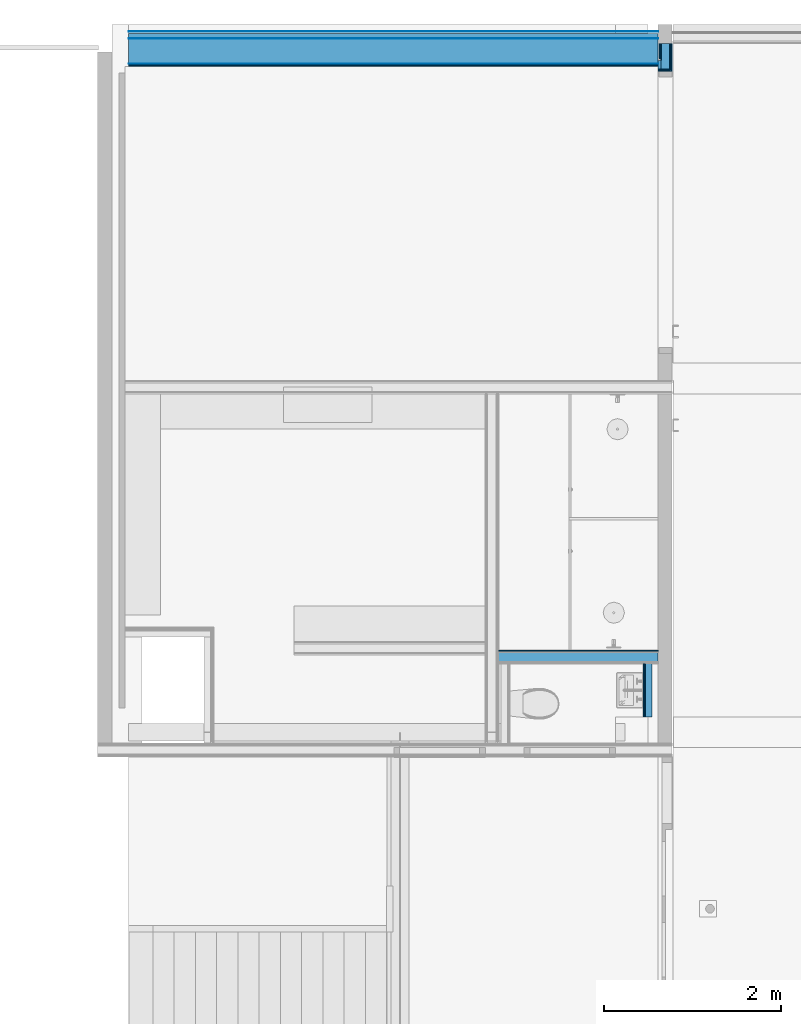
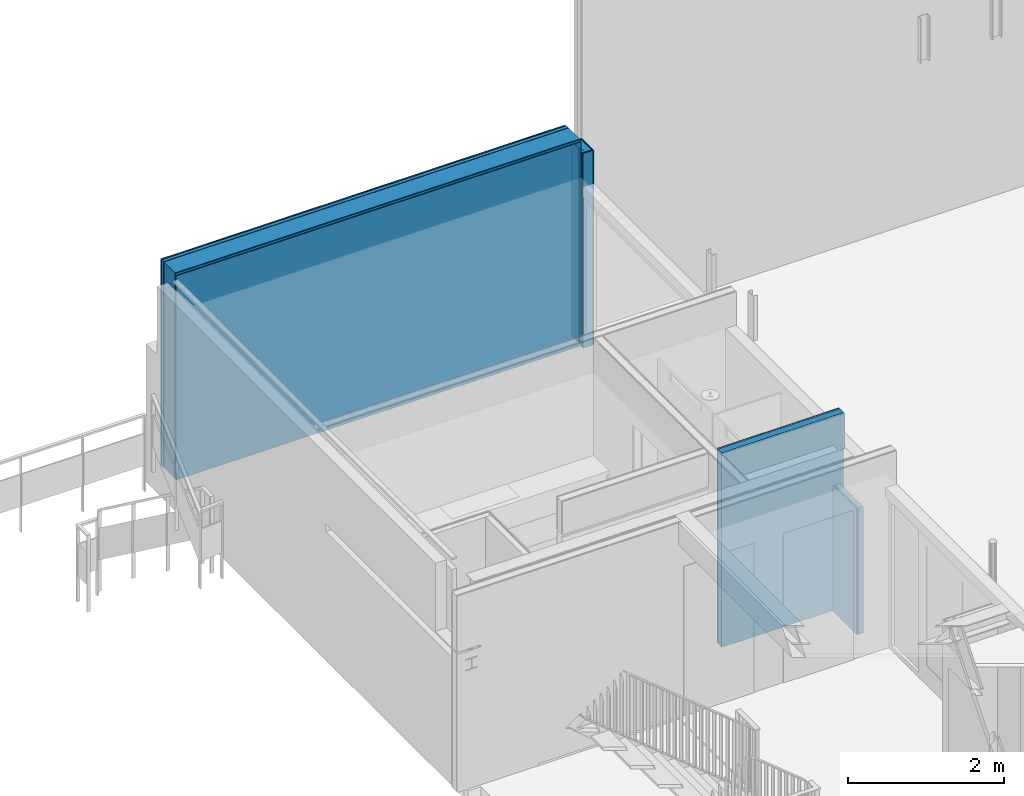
# One storey, part 13 of 35: 21 building element parts, 5 elements without a shape of their own.
"""IFC2X3 building model written with IfcOpenShell, lengths in millimetres."""

import ifcopenshell
import ifcopenshell.guid

model = None  # the IFC model being written
_history = None  # IfcOwnerHistory: only IFC2X3 demands one
_inside = {}  # id of a spatial element -> (the spatial element, [elements in it])
_under = {}  # id of a project, library or spatial element -> (it, [spatial elements below it])
_declared = {}  # id of a project -> (the project, [libraries it declares])
_typed = {}  # id of a type object -> (the type object, [elements of that type])
_made_of = {}  # id of a material, layer set ... -> (it, [elements and type objects made of it])


def new_model(schema):
    """Start an empty IFC model of exactly this schema.

    Asked for "IFC4X3", IfcOpenShell would pick the latest addendum, in which some entities
    have other attributes; the version numbers below select the first issue.
    IFC2X3 requires an IfcOwnerHistory on every rooted entity: one is made here for all.
    """
    global model, _history
    if schema == "IFC4X3":
        model = ifcopenshell.file(schema_version=(4, 3, 0, 0))
    else:
        model = ifcopenshell.file(schema=schema)
    _inside.clear()
    _under.clear()
    _declared.clear()
    _typed.clear()
    _made_of.clear()
    _history = None
    if model.schema == "IFC2X3":
        org = make("IfcOrganization", Name="unknown")
        user = make(
            "IfcPersonAndOrganization",
            ThePerson=make("IfcPerson", FamilyName="unknown"),
            TheOrganization=org,
        )
        app = make(
            "IfcApplication",
            ApplicationDeveloper=org,
            Version="unknown",
            ApplicationFullName="unknown",
            ApplicationIdentifier="unknown",
        )
        _history = make(
            "IfcOwnerHistory",
            OwningUser=user,
            OwningApplication=app,
            ChangeAction="ADDED",
            CreationDate=0,
        )
    return model


def make(cls, **values):
    """One entity of the class cls with the attributes given. An attribute that is None is left unset."""
    return model.create_entity(
        cls, **{name: value for name, value in values.items() if value is not None}
    )


def entity(cls, *values):
    """Any entity or typed value of the class cls, its attributes in the order of the schema. None: left unset."""
    e = model.create_entity(cls)
    for i, value in enumerate(values):
        if value is not None:
            e[i] = value
    return e


def rooted(cls, **values):
    """An entity with a GlobalId (a new one), such as an element, a storey or a relation."""
    return make(cls, GlobalId=ifcopenshell.guid.new(), OwnerHistory=_history, **values)


def si_unit(unit_type, name, prefix=None):
    """IfcSIUnit, for example si_unit("LENGTHUNIT", "METRE", prefix="MILLI")."""
    return make("IfcSIUnit", UnitType=unit_type, Prefix=prefix, Name=name)


def converted_unit(unit_type, name, factor, base, dimensions=None, offset=None):
    """IfcConversionBasedUnit, such as the inch: factor (a typed value) times the base unit."""
    return make(
        "IfcConversionBasedUnit"
        if offset is None
        else "IfcConversionBasedUnitWithOffset",
        ConversionOffset=offset,
        Dimensions=None
        if dimensions is None
        else entity("IfcDimensionalExponents", *dimensions),
        UnitType=unit_type,
        Name=name,
        ConversionFactor=make(
            "IfcMeasureWithUnit", ValueComponent=factor, UnitComponent=base
        ),
    )


def derived_unit(unit_type, elements):
    """IfcDerivedUnit: a product of units, each with its exponent."""
    return make(
        "IfcDerivedUnit",
        Elements=[
            make("IfcDerivedUnitElement", Unit=unit, Exponent=power)
            for unit, power in elements
        ],
        UnitType=unit_type,
    )


def money_unit(currency):
    """IfcMonetaryUnit."""
    return make("IfcMonetaryUnit", Currency=currency)


def assignment(units):
    """IfcUnitAssignment: the units of a project."""
    return None if units is None else make("IfcUnitAssignment", Units=units)


def point(xyz):
    """IfcCartesianPoint."""
    return None if xyz is None else make("IfcCartesianPoint", Coordinates=xyz)


def direction(xyz):
    """IfcDirection."""
    return None if xyz is None else make("IfcDirection", DirectionRatios=xyz)


def frame(location, z_axis=None, x_axis=None):
    """IfcAxis2Placement3D, a coordinate frame: its origin and axes. An axis left out is left unset."""
    return make(
        "IfcAxis2Placement3D",
        Location=point(location),
        Axis=direction(z_axis),
        RefDirection=direction(x_axis),
    )


def origin_with_axes():
    """The frame at (0, 0, 0) with the z axis (0, 0, 1) and the x axis (1, 0, 0) written out."""
    return frame((0.0, 0.0, 0.0), z_axis=(0.0, 0.0, 1.0), x_axis=(1.0, 0.0, 0.0))


def place(relative_to, where):
    """IfcLocalPlacement: puts the frame where relative to a parent placement (None: the world)."""
    return make(
        "IfcLocalPlacement", PlacementRelTo=relative_to, RelativePlacement=where
    )


def context(
    kind, dimensions, precision=None, world=None, true_north=None, identifier=None
):
    """IfcGeometricRepresentationContext, for example the 3D "Model" context."""
    return make(
        "IfcGeometricRepresentationContext",
        ContextIdentifier=identifier,
        ContextType=kind,
        CoordinateSpaceDimension=dimensions,
        Precision=precision,
        WorldCoordinateSystem=world,
        TrueNorth=true_north,
    )


def subcontext(parent, identifier, kind, view, scale=None):
    """IfcGeometricRepresentationSubContext, for example "Body" below "Model"."""
    return make(
        "IfcGeometricRepresentationSubContext",
        ContextIdentifier=identifier,
        ContextType=kind,
        ParentContext=parent,
        TargetScale=scale,
        TargetView=view,
    )


def project(units=None, contexts=None):
    """IfcProject with its units and contexts."""
    return rooted(
        "IfcProject",
        Name="project",
        RepresentationContexts=contexts,
        UnitsInContext=assignment(units),
    )


def spatial(cls, under=None, at=None, **own):
    """A site, building, storey or space (cls), placed at a placement, below another one or the project."""
    s = rooted(cls, ObjectPlacement=at, **own)
    if under is not None:
        _under.setdefault(under.id(), (under, []))[1].append(s)
    return s


def faces_of(points, faces, orient=None, outer=None):
    """IfcFace entities. A face is a list of loops; a loop is a list of indices into points, from 0.

    orient and outer hold one flag for each loop. By default every Orientation is true, the
    first loop of a face is its IfcFaceOuterBound and the others are IfcFaceBound.
    """
    made = []
    for i, loops in enumerate(faces):
        bounds = []
        for j, loop in enumerate(loops):
            is_outer = j == 0 if outer is None else outer[i][j]
            bounds.append(
                make(
                    "IfcFaceOuterBound" if is_outer else "IfcFaceBound",
                    Bound=make("IfcPolyLoop", Polygon=[points[k] for k in loop]),
                    Orientation=True if orient is None else orient[i][j],
                )
            )
        made.append(make("IfcFace", Bounds=bounds))
    return made


def faceted_brep(points, faces, orient=None, outer=None, voids=None):
    """IfcFacetedBrep: a solid bounded by flat faces; with voids (closed shells), ...WithVoids."""
    shared = [point(p) for p in points]
    hull = make("IfcClosedShell", CfsFaces=faces_of(shared, faces, orient, outer))
    if voids is None:
        return make("IfcFacetedBrep", Outer=hull)
    return make(
        "IfcFacetedBrepWithVoids",
        Outer=hull,
        Voids=[
            make(cls, CfsFaces=faces_of(shared, fs, o, b)) for cls, fs, o, b in voids
        ],
    )


def shape(context_of_items, identifier, shape_type, items):
    """IfcShapeRepresentation: the items that make up one representation, for example the "Body"."""
    return make(
        "IfcShapeRepresentation",
        ContextOfItems=context_of_items,
        RepresentationIdentifier=identifier,
        RepresentationType=shape_type,
        Items=items,
    )


def material(Name=None, Category=None):
    """IfcMaterial."""
    return make("IfcMaterial", Name=Name, Category=Category)


def made_of(thing, what):
    """Note that an element or type object is made of a material, layer set ...; save() writes the relation."""
    if what is not None:
        _made_of.setdefault(what.id(), (what, []))[1].append(thing)
    return thing


def type_object(cls, material=None, **own):
    """A type object (cls), such as IfcWallType, which elements share."""
    return made_of(rooted(cls, **own), material)


def element(
    cls,
    number,
    at=None,
    inside=None,
    cuts=None,
    type_object=None,
    material=None,
    context=None,
    identifier="Body",
    shape_type=None,
    held_by="IfcProductDefinitionShape",
    body=None,
    shapes=None,
    **own,
):
    """One element of the class cls, such as IfcWall. Its Tag is "e" and its number.

    at: its placement. inside: the storey or other place that contains it. cuts: it is an
    opening in that element (IfcRelVoidsElement). A single representation is given by context,
    identifier, shape_type and body (its items); several are given by shapes. held_by: the class
    of the entity that holds the representations. save() writes the other relations.
    """
    e = rooted(cls, Tag="e%d" % number, ObjectPlacement=at, **own)
    if body is not None:
        shapes = [shape(context, identifier, shape_type, body)]
    if shapes is not None:
        e.Representation = make(held_by, Representations=shapes)
    if inside is not None:
        _inside.setdefault(inside.id(), (inside, []))[1].append(e)
    if cuts is not None:
        rooted(
            "IfcRelVoidsElement", RelatingBuildingElement=cuts, RelatedOpeningElement=e
        )
    if type_object is not None:
        _typed.setdefault(type_object.id(), (type_object, []))[1].append(e)
    return made_of(e, material)


def aggregate(whole, parts):
    """IfcRelAggregates: a whole, such as a stair, and the parts it consists of."""
    return rooted("IfcRelAggregates", RelatingObject=whole, RelatedObjects=parts)


def save(model, path):
    """Write the relations noted so far, then the file.

    IfcRelAggregates (storeys below a building ...), IfcRelContainedInSpatialStructure (elements
    in a storey), IfcRelDefinesByType, IfcRelAssociatesMaterial and IfcRelDeclares: one each for
    every whole, place, type object, material and project.
    """
    for whole, parts in _under.values():
        aggregate(whole, parts)
    for where, things in _inside.values():
        rooted(
            "IfcRelContainedInSpatialStructure",
            RelatedElements=things,
            RelatingStructure=where,
        )
    for kind, things in _typed.values():
        rooted("IfcRelDefinesByType", RelatedObjects=things, RelatingType=kind)
    for what, things in _made_of.values():
        rooted("IfcRelAssociatesMaterial", RelatedObjects=things, RelatingMaterial=what)
    for by, libraries in _declared.values():
        rooted("IfcRelDeclares", RelatingContext=by, RelatedDefinitions=libraries)
    model.write(path)


model = new_model("IFC2X3")

# Units and contexts
model_context = context("Model", 3, precision=0.01, world=origin_with_axes(), true_north=direction((0.0, 1.0)))
body_context = subcontext(model_context, "Body", "Model", "MODEL_VIEW")
ifc_project = project(units=[si_unit("LENGTHUNIT", "METRE", prefix="MILLI"), si_unit("AREAUNIT", "SQUARE_METRE"), si_unit("VOLUMEUNIT", "CUBIC_METRE"), converted_unit("PLANEANGLEUNIT", "DEGREE", entity("IfcPlaneAngleMeasure", 0.0174532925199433), si_unit("PLANEANGLEUNIT", "RADIAN"), dimensions=[0, 0, 0, 0, 0, 0, 0]), money_unit("EUR"), converted_unit("TIMEUNIT", "Year", entity("IfcTimeMeasure", 31557600.0), si_unit("TIMEUNIT", "SECOND"), dimensions=[0, 0, 1, 0, 0, 0, 0]), si_unit("MASSUNIT", "GRAM", prefix="KILO"), si_unit("THERMODYNAMICTEMPERATUREUNIT", "DEGREE_CELSIUS"), si_unit("LUMINOUSINTENSITYUNIT", "LUMEN"), si_unit("ENERGYUNIT", "JOULE", prefix="MEGA"), derived_unit("THERMALCONDUCTANCEUNIT", [(si_unit("POWERUNIT", "WATT"), 1), (si_unit("LENGTHUNIT", "METRE"), -1), (si_unit("THERMODYNAMICTEMPERATUREUNIT", "KELVIN"), -1)]), derived_unit("SPECIFICHEATCAPACITYUNIT", [(si_unit("ENERGYUNIT", "JOULE"), 1), (si_unit("MASSUNIT", "GRAM", prefix="KILO"), -1), (si_unit("THERMODYNAMICTEMPERATUREUNIT", "KELVIN"), -1)]), derived_unit("MASSDENSITYUNIT", [(si_unit("MASSUNIT", "GRAM", prefix="KILO"), 1), (si_unit("VOLUMEUNIT", "CUBIC_METRE"), -1)])], contexts=[model_context])

# Site, building, storey
site_placement = place(None, origin_with_axes())
site = spatial("IfcSite", under=ifc_project, at=site_placement, Name="<site naam>", CompositionType="ELEMENT")
building_placement = place(site_placement, origin_with_axes())
building = spatial("IfcBuilding", under=site, at=building_placement, Name="<Naam gebouw>", CompositionType="ELEMENT")
storey_placement = place(building_placement, frame((0.0, 0.0, 6345.0), z_axis=(0.0, 0.0, 1.0), x_axis=(1.0, 0.0, 0.0)))
storey = spatial("IfcBuildingStorey", under=building, at=storey_placement, Name="02 2e tussenverdieping", CompositionType="ELEMENT", Elevation=6345.0)

# Wall, building element parts
wall_type_1 = type_object("IfcWallType", Name="MS-01 GF 150 ECO DGS/2.100.2.A 150", PredefinedType="NOTDEFINED")
wall_1_placement = place(storey_placement, frame((58157.78284470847, 12775.95640098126, 0.0), z_axis=(0.0, 0.0, 1.0), x_axis=(-1.0, 0.0, 0.0)))
wall_1 = element("IfcWall", 1, at=wall_1_placement, inside=storey, type_object=wall_type_1, Name="22_Binnenwand_MS-01")
ifc_material_1 = material(Name="isolatie_steenwol LSW")
building_element_part_1_placement = place(wall_1_placement, origin_with_axes())
building_element_part_1 = element("IfcBuildingElementPart", 2, at=building_element_part_1_placement, material=ifc_material_1, Name="isolatie_steenwol LSW", context=body_context, shape_type="Brep", body=[
    faceted_brep([(1802.747141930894, -125.0, 0.0), (0.0, -125.0, 0.0), (0.0, -25.00000000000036, 0.0), (1802.747141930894, -25.00000000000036, 0.0), (1802.747141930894, -125.0, 3038.000000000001), (0.0, -125.0, 3038.000000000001), (0.0, -25.00000000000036, 3038.000000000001), (1802.747141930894, -25.00000000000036, 3038.000000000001)], [[[0, 1, 2, 3]], [[4, 5, 1, 0]], [[2, 1, 5, 6]], [[3, 2, 6, 7]], [[3, 7, 4, 0]], [[7, 6, 5, 4]]]),
])
ifc_material_2 = material(Name="gipsplaat")
building_element_part_2_placement = place(wall_1_placement, origin_with_axes())
building_element_part_2 = element("IfcBuildingElementPart", 3, at=building_element_part_2_placement, material=ifc_material_2, Name="gipsplaat", context=body_context, shape_type="Brep", body=[
    faceted_brep([(1802.747141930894, -150.0000000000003, 0.0), (0.0, -150.0000000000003, 0.0), (0.0, -137.4999999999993, 0.0), (1802.747141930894, -137.4999999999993, 0.0), (1802.747141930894, -150.0000000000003, 3038.000000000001), (0.0, -150.0000000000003, 3038.000000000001), (0.0, -137.4999999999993, 3038.000000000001), (1802.747141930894, -137.4999999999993, 3038.000000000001)], [[[0, 1, 2, 3]], [[4, 5, 1, 0]], [[2, 1, 5, 6]], [[3, 2, 6, 7]], [[3, 7, 4, 0]], [[7, 6, 5, 4]]]),
])
aggregate(wall_1, [building_element_part_1, building_element_part_2])

wall_2_placement = place(storey_placement, frame((58317.78284470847, 19781.78672540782, 0.0), z_axis=(0.0, 0.0, 1.0), x_axis=(0.0, -1.0, 0.0)))
wall_2 = element("IfcWall", 4, at=wall_2_placement, inside=storey, type_object=wall_type_1, Name="22_Binnenwand_MS-01")
building_element_part_3_placement = place(wall_2_placement, origin_with_axes())
building_element_part_3 = element("IfcBuildingElementPart", 5, at=building_element_part_3_placement, material=ifc_material_2, Name="gipsplaat", context=body_context, shape_type="Brep", body=[
    faceted_brep([(311.7868628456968, 0.0, 3038.000000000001), (0.0, 0.0, 3038.000000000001), (0.0, -12.50000000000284, 3038.000000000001), (311.7868628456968, -12.50000000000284, 3038.000000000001), (311.7868628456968, 0.0, 0.0), (0.0, 0.0, 0.0), (0.0, -12.50000000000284, 0.0), (311.7868628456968, -12.50000000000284, 0.0)], [[[0, 1, 2, 3]], [[4, 5, 1, 0]], [[2, 1, 5, 6]], [[3, 2, 6, 7]], [[3, 7, 4, 0]], [[7, 6, 5, 4]]]),
])
building_element_part_4_placement = place(wall_2_placement, origin_with_axes())
building_element_part_4 = element("IfcBuildingElementPart", 6, at=building_element_part_4_placement, material=ifc_material_2, Name="gipsplaat", context=body_context, shape_type="Brep", body=[
    faceted_brep([(299.2868628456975, -12.50000000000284, 3038.000000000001), (0.0, -12.50000000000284, 3038.000000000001), (0.0, -24.99999999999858, 3038.000000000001), (299.2868628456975, -24.99999999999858, 3038.000000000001), (299.2868628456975, -12.50000000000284, 0.0), (0.0, -12.50000000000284, 0.0), (0.0, -24.99999999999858, 0.0), (299.2868628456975, -24.99999999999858, 0.0)], [[[0, 1, 2, 3]], [[4, 5, 1, 0]], [[2, 1, 5, 6]], [[3, 2, 6, 7]], [[3, 7, 4, 0]], [[7, 6, 5, 4]]]),
])
building_element_part_5_placement = place(wall_2_placement, origin_with_axes())
building_element_part_5 = element("IfcBuildingElementPart", 7, at=building_element_part_5_placement, material=ifc_material_2, Name="gipsplaat", context=body_context, shape_type="Brep", body=[
    faceted_brep([(186.7868628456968, -125.0, 3038.000000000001), (0.0, -125.0, 3038.000000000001), (0.0, -137.5000000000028, 3038.000000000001), (186.7868628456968, -137.5000000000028, 3038.000000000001), (186.7868628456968, -125.0, 0.0), (0.0, -125.0, 0.0), (0.0, -137.5000000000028, 0.0), (186.7868628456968, -137.5000000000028, 0.0)], [[[0, 1, 2, 3]], [[4, 5, 1, 0]], [[2, 1, 5, 6]], [[3, 2, 6, 7]], [[3, 7, 4, 0]], [[7, 6, 5, 4]]]),
])
building_element_part_6_placement = place(wall_2_placement, origin_with_axes())
building_element_part_6 = element("IfcBuildingElementPart", 8, at=building_element_part_6_placement, material=ifc_material_2, Name="gipsplaat", context=body_context, shape_type="Brep", body=[
    faceted_brep([(174.2868628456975, -137.5000000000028, 3038.000000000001), (0.0, -137.5000000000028, 3038.000000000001), (0.0, -149.9999999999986, 3038.000000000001), (174.2868628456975, -149.9999999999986, 3038.000000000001), (174.2868628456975, -137.5000000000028, 0.0), (0.0, -137.5000000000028, 0.0), (0.0, -149.9999999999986, 0.0), (174.2868628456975, -149.9999999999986, 0.0)], [[[0, 1, 2, 3]], [[4, 5, 1, 0]], [[2, 1, 5, 6]], [[3, 2, 6, 7]], [[3, 7, 4, 0]], [[7, 6, 5, 4]]]),
])
building_element_part_7_placement = place(wall_2_placement, origin_with_axes())
building_element_part_7 = element("IfcBuildingElementPart", 9, at=building_element_part_7_placement, material=ifc_material_1, Name="isolatie_steenwol LSW", context=body_context, shape_type="Brep", body=[
    faceted_brep([(286.7868628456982, -24.99999999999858, 3038.000000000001), (0.0, -24.99999999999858, 3038.000000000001), (0.0, -125.0, 3038.000000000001), (286.7868628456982, -125.0, 3038.000000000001), (286.7868628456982, -24.99999999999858, 0.0), (0.0, -24.99999999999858, 0.0), (0.0, -125.0, 0.0), (286.7868628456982, -125.0, 0.0)], [[[0, 1, 2, 3]], [[4, 5, 1, 0]], [[2, 1, 5, 6]], [[3, 2, 6, 7]], [[3, 7, 4, 0]], [[7, 6, 5, 4]]]),
])
aggregate(wall_2, [building_element_part_3, building_element_part_4, building_element_part_5, building_element_part_6, building_element_part_7])

wall_3_placement = place(storey_placement, frame((58317.78284470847, 19469.99986256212, 0.0), z_axis=(0.0, 0.0, 1.0), x_axis=(-1.0, 0.0, 0.0)))
wall_3 = element("IfcWall", 10, at=wall_3_placement, inside=storey, type_object=wall_type_1, Name="22_Binnenwand_MS-01")
building_element_part_8_placement = place(wall_3_placement, origin_with_axes())
building_element_part_8 = element("IfcBuildingElementPart", 11, at=building_element_part_8_placement, material=ifc_material_2, Name="gipsplaat", context=body_context, shape_type="Brep", body=[
    faceted_brep([(159.9999311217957, -12.49999999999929, 3038.000000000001), (159.9999311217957, 0.0, 3038.000000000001), (12.50000000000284, 0.0, 3038.000000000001), (12.50000000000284, -12.49999999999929, 3038.000000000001), (159.9999311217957, -12.49999999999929, 0.0), (159.9999311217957, 0.0, 0.0), (12.50000000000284, 0.0, 0.0), (12.50000000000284, -12.49999999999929, 0.0)], [[[0, 1, 2, 3]], [[0, 4, 5, 1]], [[1, 5, 6, 2]], [[3, 2, 6, 7]], [[4, 0, 3, 7]], [[5, 4, 7, 6]]]),
])
building_element_part_9_placement = place(wall_3_placement, origin_with_axes())
building_element_part_9 = element("IfcBuildingElementPart", 12, at=building_element_part_9_placement, material=ifc_material_2, Name="gipsplaat", context=body_context, shape_type="Brep", body=[
    faceted_brep([(159.9999311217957, -24.99999999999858, 3038.000000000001), (159.9999311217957, -12.49999999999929, 3038.000000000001), (24.99999999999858, -12.49999999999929, 3038.000000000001), (24.99999999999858, -24.99999999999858, 3038.000000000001), (159.9999311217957, -24.99999999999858, 0.0), (159.9999311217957, -12.49999999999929, 0.0), (24.99999999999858, -12.49999999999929, 0.0), (24.99999999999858, -24.99999999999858, 0.0)], [[[0, 1, 2, 3]], [[0, 4, 5, 1]], [[1, 5, 6, 2]], [[3, 2, 6, 7]], [[4, 0, 3, 7]], [[5, 4, 7, 6]]]),
])
building_element_part_10_placement = place(wall_3_placement, origin_with_axes())
building_element_part_10 = element("IfcBuildingElementPart", 13, at=building_element_part_10_placement, material=ifc_material_1, Name="isolatie_steenwol LSW", context=body_context, shape_type="Brep", body=[
    faceted_brep([(159.9999311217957, -125.0, 3038.000000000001), (159.9999311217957, -24.99999999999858, 3038.000000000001), (125.0, -24.99999999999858, 3038.000000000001), (125.0, -125.0, 3038.000000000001), (159.9999311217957, -125.0, 0.0), (159.9999311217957, -24.99999999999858, 0.0), (125.0, -24.99999999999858, 0.0), (125.0, -125.0, 0.0)], [[[0, 1, 2, 3]], [[0, 4, 5, 1]], [[1, 5, 6, 2]], [[3, 2, 6, 7]], [[4, 0, 3, 7]], [[5, 4, 7, 6]]]),
])
aggregate(wall_3, [building_element_part_8, building_element_part_9, building_element_part_10])

wall_type_2 = type_object("IfcWallType", Name="HSB_285 gevelbeplating Brise Soleil 398", PredefinedType="NOTDEFINED")
wall_4_placement = place(storey_placement, frame((52174.99998309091, 19527.50019144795, 0.0), z_axis=(0.0, 0.0, 1.0), x_axis=(1.0, 0.0, 0.0)))
wall_4 = element("IfcWall", 14, at=wall_4_placement, inside=storey, type_object=wall_type_2, Name="21_Binnenwand_HSB_285")
ifc_material_3 = material(Name="metaal - Aluminium gevelplaat")
building_element_part_11_placement = place(wall_4_placement, origin_with_axes())
building_element_part_11 = element("IfcBuildingElementPart", 15, at=building_element_part_11_placement, material=ifc_material_3, Name="metaal - Aluminium gevelplaat", context=body_context, shape_type="Brep", body=[
    faceted_brep([(5982.782943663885, 389.5000000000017, 3218.000000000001), (5982.782943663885, 397.5000000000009, 3218.000000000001), (0.0, 397.5000000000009, 3218.000000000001), (0.0, 389.5000000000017, 3218.000000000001), (5982.782943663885, 389.5000000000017, 0.0), (5982.782943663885, 397.5000000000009, 0.0), (0.0, 397.5000000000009, 0.0), (0.0, 389.5000000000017, 0.0)], [[[0, 1, 2, 3]], [[0, 4, 5, 1]], [[1, 5, 6, 2]], [[3, 2, 6, 7]], [[4, 0, 3, 7]], [[5, 4, 7, 6]]]),
])
ifc_material_4 = material(Name="isolatie _steenwol_hard")
building_element_part_12_placement = place(wall_4_placement, origin_with_axes())
building_element_part_12 = element("IfcBuildingElementPart", 16, at=building_element_part_12_placement, material=ifc_material_4, Name="isolatie _steenwol_hard", context=body_context, shape_type="Brep", body=[
    faceted_brep([(5982.782943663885, 318.0000000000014, 3218.000000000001), (5982.782943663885, 368.0000000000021, 3218.000000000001), (0.0, 367.9999999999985, 3218.000000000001), (0.0, 318.0000000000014, 3218.000000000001), (5982.782943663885, 318.0000000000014, 0.0), (5982.782943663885, 368.0000000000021, 0.0), (0.0, 367.9999999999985, 0.0), (0.0, 318.0000000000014, 0.0)], [[[0, 1, 2, 3]], [[0, 4, 5, 1]], [[1, 5, 6, 2]], [[3, 2, 6, 7]], [[4, 0, 3, 7]], [[5, 4, 7, 6]]]),
])
ifc_material_5 = material(Name="folie_dampopen")
building_element_part_13_placement = place(wall_4_placement, origin_with_axes())
building_element_part_13 = element("IfcBuildingElementPart", 17, at=building_element_part_13_placement, material=ifc_material_5, Name="folie_dampopen", context=body_context, shape_type="Brep", body=[
    faceted_brep([(5982.782943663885, 317.499999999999, 3218.000000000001), (5982.782943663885, 318.0000000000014, 3218.000000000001), (0.0, 318.0000000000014, 3218.000000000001), (0.0, 317.499999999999, 3218.000000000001), (5982.782943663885, 317.499999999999, 0.0), (5982.782943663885, 318.0000000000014, 0.0), (0.0, 318.0000000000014, 0.0), (0.0, 317.499999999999, 0.0)], [[[0, 1, 2, 3]], [[0, 4, 5, 1]], [[1, 5, 6, 2]], [[3, 2, 6, 7]], [[4, 0, 3, 7]], [[5, 4, 7, 6]]]),
])
ifc_material_6 = material(Name="brandwerende_bekleding")
building_element_part_14_placement = place(wall_4_placement, origin_with_axes())
building_element_part_14 = element("IfcBuildingElementPart", 18, at=building_element_part_14_placement, material=ifc_material_6, Name="brandwerende_bekleding", context=body_context, shape_type="Brep", body=[
    faceted_brep([(5982.782943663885, 312.9999999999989, 3218.000000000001), (5982.782943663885, 317.499999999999, 3218.000000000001), (0.0, 317.499999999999, 3218.000000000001), (0.0, 312.9999999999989, 3218.000000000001), (5982.782943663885, 312.9999999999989, 0.0), (5982.782943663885, 317.499999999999, 0.0), (0.0, 317.499999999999, 0.0), (0.0, 312.9999999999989, 0.0)], [[[0, 1, 2, 3]], [[0, 4, 5, 1]], [[1, 5, 6, 2]], [[3, 2, 6, 7]], [[4, 0, 3, 7]], [[5, 4, 7, 6]]]),
])
ifc_material_7 = material(Name="isolatie_houtvezel")
building_element_part_15_placement = place(wall_4_placement, origin_with_axes())
building_element_part_15 = element("IfcBuildingElementPart", 19, at=building_element_part_15_placement, material=ifc_material_7, Name="isolatie_houtvezel", context=body_context, shape_type="Brep", body=[
    faceted_brep([(5982.782943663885, 28.00000000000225, 3218.000000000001), (5982.782943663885, 312.9999999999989, 3218.000000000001), (0.0, 312.9999999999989, 3218.000000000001), (0.0, 27.99999999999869, 3218.000000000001), (5982.782943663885, 27.99999999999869, 0.0), (5982.782943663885, 312.9999999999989, 0.0), (0.0, 312.9999999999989, 0.0), (0.0, 27.99999999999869, 0.0)], [[[0, 1, 2, 3]], [[0, 4, 5, 1]], [[1, 5, 6, 2]], [[3, 2, 6, 7]], [[4, 0, 3, 7]], [[5, 4, 7, 6]]]),
])
ifc_material_8 = material(Name="folie_dampdicht")
building_element_part_16_placement = place(wall_4_placement, origin_with_axes())
building_element_part_16 = element("IfcBuildingElementPart", 20, at=building_element_part_16_placement, material=ifc_material_8, Name="folie_dampdicht", context=body_context, shape_type="Brep", body=[
    faceted_brep([(5982.782943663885, 27.49999999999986, 3218.000000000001), (5982.782943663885, 28.00000000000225, 3218.000000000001), (0.0, 27.99999999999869, 3218.000000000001), (0.0, 27.49999999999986, 3218.000000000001), (5982.782943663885, 27.49999999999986, 0.0), (5982.782943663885, 27.99999999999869, 0.0), (0.0, 27.99999999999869, 0.0), (0.0, 27.49999999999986, 0.0)], [[[0, 1, 2, 3]], [[0, 4, 5, 1]], [[1, 5, 6, 2]], [[3, 2, 6, 7]], [[4, 0, 3, 7]], [[5, 4, 7, 6]]]),
])
ifc_material_9 = material(Name="hout_OSB")
building_element_part_17_placement = place(wall_4_placement, origin_with_axes())
building_element_part_17 = element("IfcBuildingElementPart", 21, at=building_element_part_17_placement, material=ifc_material_9, Name="hout_OSB", context=body_context, shape_type="Brep", body=[
    faceted_brep([(5982.782943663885, 12.49999999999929, 3218.000000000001), (5982.782943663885, 27.49999999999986, 3218.000000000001), (0.0, 27.49999999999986, 3218.000000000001), (0.0, 12.49999999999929, 3218.000000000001), (5982.782943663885, 12.49999999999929, 0.0), (5982.782943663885, 27.49999999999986, 0.0), (0.0, 27.49999999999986, 0.0), (0.0, 12.49999999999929, 0.0)], [[[0, 1, 2, 3]], [[0, 4, 5, 1]], [[1, 5, 6, 2]], [[3, 2, 6, 7]], [[4, 0, 3, 7]], [[5, 4, 7, 6]]]),
])
building_element_part_18_placement = place(wall_4_placement, origin_with_axes())
building_element_part_18 = element("IfcBuildingElementPart", 22, at=building_element_part_18_placement, material=ifc_material_2, Name="gipsplaat", context=body_context, shape_type="Brep", body=[
    faceted_brep([(0.0, 12.49999999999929, 3188.000000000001), (5982.782819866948, 12.49999999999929, 3188.000000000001), (5982.782943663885, 12.49999999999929, 0.0), (0.0, 12.49999999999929, 0.0), (5982.782819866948, 0.0, 3188.000000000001), (0.0, 0.0, 3188.000000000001), (5982.782943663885, 0.0, 0.0), (0.0, 0.0, 0.0)], [[[0, 1, 2, 3]], [[4, 1, 0, 5]], [[1, 4, 6, 2]], [[3, 2, 6, 7]], [[5, 0, 3, 7]], [[4, 5, 7, 6]]]),
])
aggregate(wall_4, [building_element_part_11, building_element_part_12, building_element_part_13, building_element_part_14, building_element_part_15, building_element_part_16, building_element_part_17, building_element_part_18])

wall_type_3 = type_object("IfcWallType", Name="MS-03 GF 100 HTT DGS V/100.2 100", PredefinedType="NOTDEFINED")
wall_5_placement = place(storey_placement, frame((57987.9998014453, 12175.00000000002, 0.0), z_axis=(0.0, 0.0, 1.0), x_axis=(7.621876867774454e-08, 0.9999999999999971, 0.0)))
wall_5 = element("IfcWall", 23, at=wall_5_placement, inside=storey, type_object=wall_type_3, Name="22_Binnenwand_MS-03")
building_element_part_19_placement = place(wall_5_placement, origin_with_axes())
building_element_part_19 = element("IfcBuildingElementPart", 24, at=building_element_part_19_placement, material=ifc_material_2, Name="gipsplaat", context=body_context, shape_type="Brep", body=[
    faceted_brep([(599.9694853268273, -12.00015065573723, 0.0), (599.9694850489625, 4.572893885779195e-05, 0.0), (600.956400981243, 4.580415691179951e-05, 0.0), (600.9564019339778, -12.49995419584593, 0.0), (9.527347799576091e-07, -12.50000000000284, 0.0), (8.170609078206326e-06, -12.00019638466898, 0.0), (599.9694853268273, -12.00015065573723, 3.000000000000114), (599.9694850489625, 4.572893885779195e-05, 3.000000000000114), (7.255968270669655e-06, 0.0, 3.000000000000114), (0.0, 0.0, 1975.0), (600.956400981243, 4.580415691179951e-05, 1975.0), (600.9564019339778, -12.49995419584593, 1975.0), (9.527347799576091e-07, -12.50000000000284, 1975.0), (8.170609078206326e-06, -12.00019638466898, 3.000000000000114)], [[[0, 1, 2, 3, 4, 5]], [[1, 0, 6, 7]], [[7, 8, 9, 10, 2, 1]], [[10, 11, 3, 2]], [[3, 11, 12, 4]], [[13, 5, 4, 12, 9, 8]], [[0, 5, 13, 6]], [[13, 8, 7, 6]], [[11, 10, 9, 12]]]),
])
building_element_part_20_placement = place(wall_5_placement, origin_with_axes())
building_element_part_20 = element("IfcBuildingElementPart", 25, at=building_element_part_20_placement, material=ifc_material_2, Name="gipsplaat", context=body_context, shape_type="Brep", body=[
    faceted_brep([(600.9564019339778, -12.49995419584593, 1975.0), (9.527347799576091e-07, -12.50000000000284, 1975.0), (1.905469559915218e-06, -24.99999999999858, 1975.0), (600.9564028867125, -24.99995419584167, 1975.0), (600.9564019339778, -12.49995419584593, 0.0), (9.527347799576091e-07, -12.50000000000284, 0.0), (1.905469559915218e-06, -24.99999999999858, 0.0), (600.9564028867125, -24.99995419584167, 0.0)], [[[0, 1, 2, 3]], [[4, 5, 1, 0]], [[2, 1, 5, 6]], [[3, 2, 6, 7]], [[3, 7, 4, 0]], [[7, 6, 5, 4]]]),
])
building_element_part_21_placement = place(wall_5_placement, origin_with_axes())
building_element_part_21 = element("IfcBuildingElementPart", 26, at=building_element_part_21_placement, material=ifc_material_1, Name="isolatie_steenwol LSW", context=body_context, shape_type="Brep", body=[
    faceted_brep([(600.9564028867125, -24.99995419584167, 1975.0), (1.905469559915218e-06, -24.99999999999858, 1975.0), (7.621878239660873e-06, -100.0000000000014, 1975.0), (600.9564086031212, -99.99995419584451, 1975.0), (600.9564028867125, -24.99995419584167, 0.0), (1.905469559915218e-06, -24.99999999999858, 0.0), (7.621878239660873e-06, -100.0000000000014, 0.0), (600.9564086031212, -99.99995419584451, 0.0)], [[[0, 1, 2, 3]], [[4, 5, 1, 0]], [[2, 1, 5, 6]], [[3, 2, 6, 7]], [[3, 7, 4, 0]], [[7, 6, 5, 4]]]),
])
aggregate(wall_5, [building_element_part_19, building_element_part_20, building_element_part_21])

save(model, "model.ifc")
